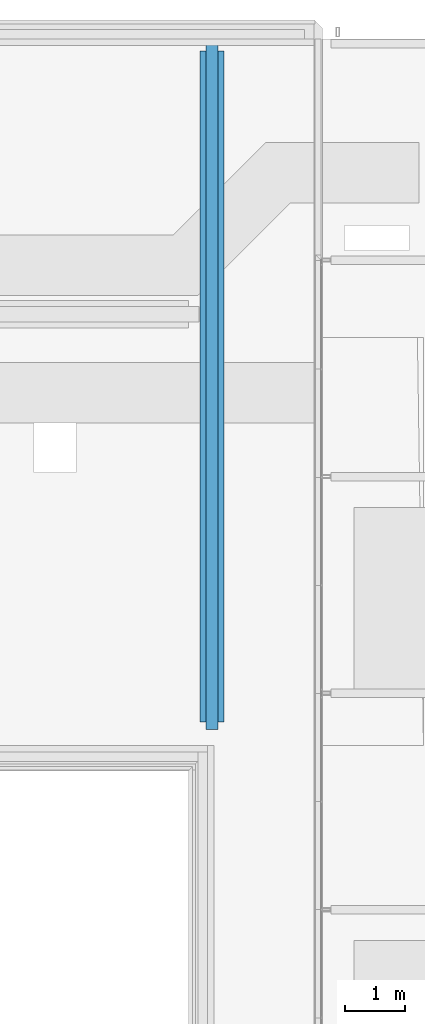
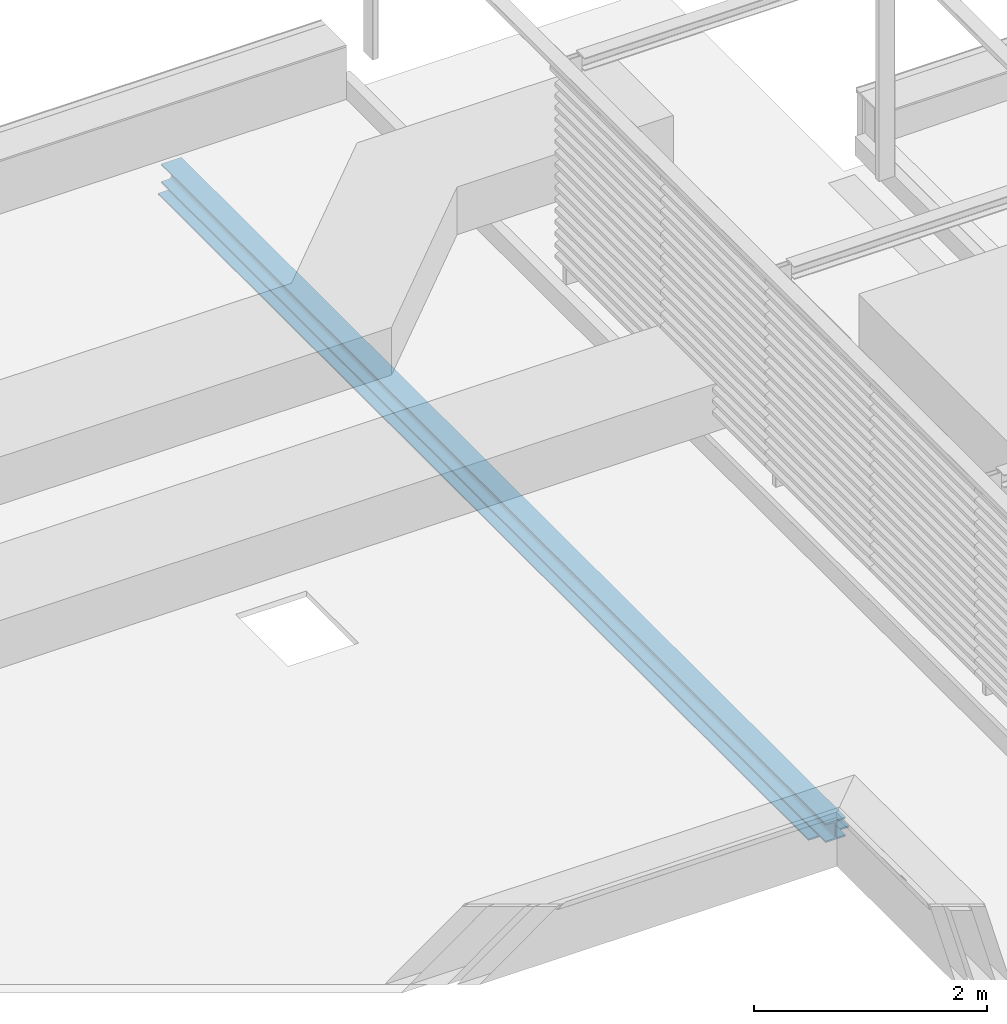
# One storey, part 15 of 32: 1 beam.
"""IFC2X3 building model written with IfcOpenShell, lengths in millimetres."""

from ifc_helpers import new_model, entity, si_unit, converted_unit, derived_unit, direction, frame, frame_2d, origin, origin_2d_with_axis, place, context, subcontext, project, spatial, polyline, circle_curve, parameter, trimmed, segment, composite_curve, rectangle, outline, extrude, source, transform, mapped, material, material_list, type_object, type_shapes, element, save


model = new_model("IFC2X3")

# Units and contexts
model_context = context("Model", 3, precision=0.01, world=origin(), true_north=direction((6.123031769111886e-17, 1.0)))
body_context = subcontext(model_context, "Body", "Model", "MODEL_VIEW")
ifc_project = project(units=[si_unit("LENGTHUNIT", "METRE", prefix="MILLI"), si_unit("AREAUNIT", "SQUARE_METRE"), si_unit("VOLUMEUNIT", "CUBIC_METRE"), converted_unit("PLANEANGLEUNIT", "DEGREE", entity("IfcRatioMeasure", 0.017453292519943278), si_unit("PLANEANGLEUNIT", "RADIAN"), dimensions=[0, 0, 0, 0, 0, 0, 0]), si_unit("MASSUNIT", "GRAM", prefix="KILO"), derived_unit("MASSDENSITYUNIT", [(si_unit("MASSUNIT", "GRAM", prefix="KILO"), 1), (si_unit("LENGTHUNIT", "METRE"), -3)]), derived_unit("IONCONCENTRATIONUNIT", [(si_unit("MASSUNIT", "GRAM", prefix="KILO"), 1), (si_unit("LENGTHUNIT", "METRE"), -3)]), derived_unit("MOMENTOFINERTIAUNIT", [(si_unit("LENGTHUNIT", "METRE"), 4)]), si_unit("TIMEUNIT", "SECOND"), si_unit("FREQUENCYUNIT", "HERTZ"), si_unit("THERMODYNAMICTEMPERATUREUNIT", "DEGREE_CELSIUS"), derived_unit("THERMALTRANSMITTANCEUNIT", [(si_unit("MASSUNIT", "GRAM", prefix="KILO"), 1), (si_unit("THERMODYNAMICTEMPERATUREUNIT", "KELVIN"), -1), (si_unit("TIMEUNIT", "SECOND"), -3)]), derived_unit("THERMALCONDUCTANCEUNIT", [(si_unit("MASSUNIT", "GRAM", prefix="KILO"), 1), (si_unit("THERMODYNAMICTEMPERATUREUNIT", "KELVIN"), -1), (si_unit("TIMEUNIT", "SECOND"), -3), (si_unit("LENGTHUNIT", "METRE"), 1)]), derived_unit("VOLUMETRICFLOWRATEUNIT", [(si_unit("LENGTHUNIT", "METRE"), 3), (si_unit("TIMEUNIT", "SECOND"), -1)]), derived_unit("MASSFLOWRATEUNIT", [(si_unit("MASSUNIT", "GRAM", prefix="KILO"), 1), (si_unit("TIMEUNIT", "SECOND"), -1)]), derived_unit("ROTATIONALFREQUENCYUNIT", [(si_unit("TIMEUNIT", "SECOND"), -1)]), si_unit("ELECTRICCURRENTUNIT", "AMPERE"), si_unit("ELECTRICVOLTAGEUNIT", "VOLT"), si_unit("POWERUNIT", "WATT"), si_unit("FORCEUNIT", "NEWTON", prefix="KILO"), si_unit("ILLUMINANCEUNIT", "LUX"), si_unit("LUMINOUSFLUXUNIT", "LUMEN"), si_unit("LUMINOUSINTENSITYUNIT", "CANDELA"), derived_unit("USERDEFINED", [(si_unit("MASSUNIT", "GRAM", prefix="KILO"), -1), (si_unit("LENGTHUNIT", "METRE"), -2), (si_unit("TIMEUNIT", "SECOND"), 3), (si_unit("LUMINOUSFLUXUNIT", "LUMEN"), 1)]), derived_unit("USERDEFINED", [(si_unit("MASSUNIT", "GRAM", prefix="KILO"), 1), (si_unit("TIMEUNIT", "SECOND"), -3), (si_unit("LENGTHUNIT", "METRE"), 3), (si_unit("ELECTRICCURRENTUNIT", "AMPERE"), -2)]), derived_unit("SOUNDPOWERUNIT", [(si_unit("MASSUNIT", "GRAM", prefix="KILO"), 1), (si_unit("TIMEUNIT", "SECOND"), -3), (si_unit("LENGTHUNIT", "METRE"), 2)]), derived_unit("SOUNDPRESSUREUNIT", [(si_unit("MASSUNIT", "GRAM", prefix="KILO"), 1), (si_unit("LENGTHUNIT", "METRE"), -1), (si_unit("TIMEUNIT", "SECOND"), -2)]), derived_unit("LINEARVELOCITYUNIT", [(si_unit("LENGTHUNIT", "METRE"), 1), (si_unit("TIMEUNIT", "SECOND"), -1)]), si_unit("PRESSUREUNIT", "PASCAL"), derived_unit("USERDEFINED", [(si_unit("MASSUNIT", "GRAM", prefix="KILO"), 1), (si_unit("LENGTHUNIT", "METRE"), -2), (si_unit("TIMEUNIT", "SECOND"), -2)]), derived_unit("LINEARFORCEUNIT", [(si_unit("MASSUNIT", "GRAM", prefix="KILO"), 1), (si_unit("TIMEUNIT", "SECOND"), -2)]), derived_unit("PLANARFORCEUNIT", [(si_unit("MASSUNIT", "GRAM", prefix="KILO"), 1), (si_unit("LENGTHUNIT", "METRE"), -1), (si_unit("TIMEUNIT", "SECOND"), -2)]), derived_unit("SPECIFICHEATCAPACITYUNIT", [(si_unit("THERMODYNAMICTEMPERATUREUNIT", "KELVIN"), -1), (si_unit("LENGTHUNIT", "METRE"), 2), (si_unit("TIMEUNIT", "SECOND"), -2)]), derived_unit("HEATINGVALUEUNIT", [(si_unit("LENGTHUNIT", "METRE"), 2), (si_unit("TIMEUNIT", "SECOND"), -2)]), derived_unit("VAPORPERMEABILITYUNIT", [(si_unit("LENGTHUNIT", "METRE"), -1), (si_unit("TIMEUNIT", "SECOND"), 1)]), derived_unit("DYNAMICVISCOSITYUNIT", [(si_unit("MASSUNIT", "GRAM", prefix="KILO"), 1), (si_unit("TIMEUNIT", "SECOND"), -1), (si_unit("LENGTHUNIT", "METRE"), -1)]), derived_unit("THERMALEXPANSIONCOEFFICIENTUNIT", [(si_unit("THERMODYNAMICTEMPERATUREUNIT", "KELVIN"), -1)]), derived_unit("MODULUSOFELASTICITYUNIT", [(si_unit("MASSUNIT", "GRAM", prefix="KILO"), 1), (si_unit("LENGTHUNIT", "METRE"), -1), (si_unit("TIMEUNIT", "SECOND"), -2)]), derived_unit("ISOTHERMALMOISTURECAPACITYUNIT", [(si_unit("LENGTHUNIT", "METRE"), 3), (si_unit("MASSUNIT", "GRAM", prefix="KILO"), -1)]), derived_unit("MOISTUREDIFFUSIVITYUNIT", [(si_unit("TIMEUNIT", "SECOND"), -1), (si_unit("LENGTHUNIT", "METRE"), 2)])], contexts=[model_context])

# Site, building, storey
site_placement = place(None, frame((0.0, 300.0, 0.0)))
site = spatial("IfcSite", under=ifc_project, at=site_placement, Name="<Kadastrale nummers>", CompositionType="ELEMENT")
building_placement = place(site_placement, origin())
building = spatial("IfcBuilding", under=site, at=building_placement, CompositionType="ELEMENT")
storey_placement = place(building_placement, frame((0.0, 0.0, 7150.000035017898)))
storey = spatial("IfcBuildingStorey", under=building, at=storey_placement, Name="02 tweede verdieping", CompositionType="ELEMENT", Elevation=7150.000035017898)

# Beam
ifc_material_1 = material(Name="ISR_Staal")
ifc_material_2 = material(Name="<Unnamed>")
ifc_material_list = material_list([ifc_material_2, ifc_material_1])
beam_type = type_object("IfcBeamType", Name="NLRS_28_SF_LIB_balk sfb_gen_ISR1:balk gen heb200 400x15", PredefinedType="T_BEAM", material=ifc_material_list)
shared_shape = source(origin(), body_context, "Body", "SweptSolid", [
    extrude(rectangle(XDim=15.000000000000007, YDim=399.99999999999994, at=origin_2d_with_axis()), frame((-5580.0, 0.0, -60.50000000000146), z_axis=(1.0, 0.0, 0.0), x_axis=(0.0, 0.0, -1.0)), (0.0, 0.0, 1.0), 11159.999999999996),
    extrude(outline(composite_curve([segment(polyline([(85.0, -100.0), (100.0, -100.0)]), True, "CONTINUOUS"), segment(polyline([(100.0, -100.0), (100.0, 100.0)]), True, "CONTINUOUS"), segment(polyline([(100.0, 100.0), (85.0, 100.0)]), True, "CONTINUOUS"), segment(polyline([(85.0, 100.0), (85.0, 22.49999999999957)]), True, "CONTINUOUS"), segment(trimmed(circle_curve(frame_2d((67.0, 22.499999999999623), x_axis=(1.0, 0.0)), 17.99999999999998), [parameter(269.99999999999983)], [parameter(0.0)], True, "PARAMETER"), False, "CONTINUOUS"), segment(polyline([(67.0, 4.499999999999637), (-67.0, 4.499999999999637)]), True, "CONTINUOUS"), segment(trimmed(circle_curve(frame_2d((-67.0, 22.499999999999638), x_axis=(0.0, -1.0)), 17.999999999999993), [parameter(269.99999999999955)], [parameter(0.0)], True, "PARAMETER"), False, "CONTINUOUS"), segment(polyline([(-85.0, 22.499999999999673), (-85.0, 100.0)]), True, "CONTINUOUS"), segment(polyline([(-85.0, 100.0), (-100.0, 100.0)]), True, "CONTINUOUS"), segment(polyline([(-100.0, 100.0), (-100.0, -100.0)]), True, "CONTINUOUS"), segment(polyline([(-100.0, -100.0), (-85.0, -100.0)]), True, "CONTINUOUS"), segment(polyline([(-85.0, -100.0), (-85.0, -22.50000000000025)]), True, "CONTINUOUS"), segment(trimmed(circle_curve(frame_2d((-67.0, -22.500000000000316), x_axis=(-1.0, 0.0)), 18.000000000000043), [parameter(269.9999999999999)], [parameter(0.0)], True, "PARAMETER"), False, "CONTINUOUS"), segment(polyline([(-67.0, -4.500000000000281), (67.0, -4.500000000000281)]), True, "CONTINUOUS"), segment(trimmed(circle_curve(frame_2d((67.0, -22.500000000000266), x_axis=(0.0, 1.0)), 17.999999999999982), [parameter(269.99999999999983)], [parameter(0.0)], True, "PARAMETER"), False, "CONTINUOUS"), segment(polyline([(85.0, -22.50000000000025), (85.0, -100.0)]), True, "CONTINUOUS")], self_intersect=False)), frame((-5700.0, 0.0, 47.0), z_axis=(1.0, 0.0, 0.0), x_axis=(0.0, 0.0, -1.0)), (0.0, 0.0, 1.0), 11399.999999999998),
])
type_shapes(beam_type, [shared_shape])
beam_placement = place(storey_placement, frame((36600.0, 44100.0, -207.0), z_axis=(0.0, 0.0, 1.0), x_axis=(0.0, -1.0, 0.0)))
element("IfcBeam", 1, at=beam_placement, inside=storey, type_object=beam_type, material=ifc_material_1, Name="NLRS_28_SF_LIB_balk sfb_gen_ISR1:balk gen heb200 400x15", ObjectType="NLRS_28_SF_LIB_balk sfb_gen_ISR1:balk gen heb200 400x15", context=body_context, shape_type="MappedRepresentation", body=[
    mapped(shared_shape, transform((0.0, 0.0, 0.0), scale=1.0)),
])

save(model, "model.ifc")
